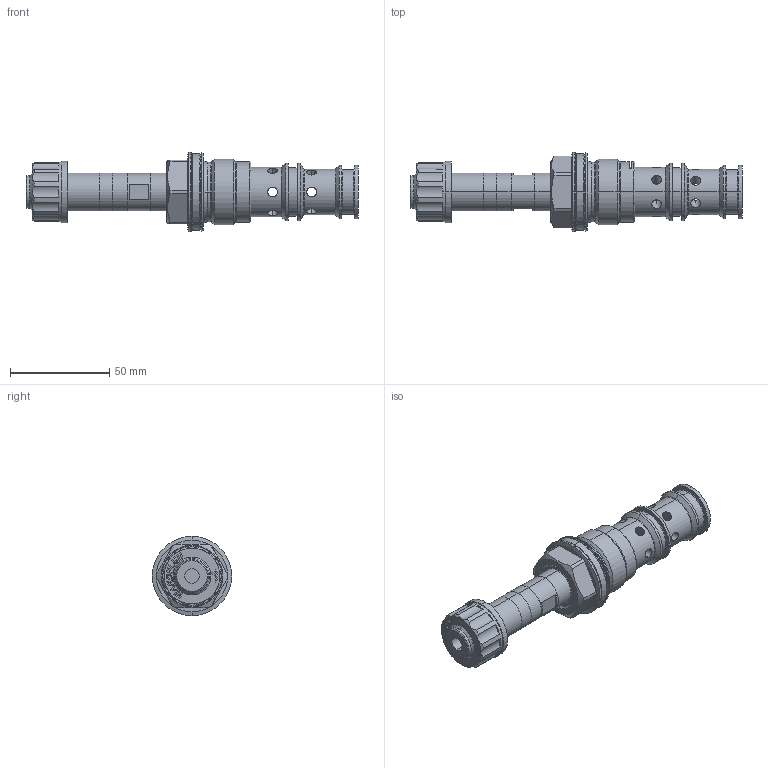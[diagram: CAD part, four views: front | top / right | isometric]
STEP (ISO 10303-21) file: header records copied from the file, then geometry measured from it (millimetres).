
FILE_DESCRIPTION (( 'STEP AP214' ), '1' );
FILE_NAME ('MVPPM33.STEP', '2014-03-19T09:37:58', ( '' ), ( '' ), 'SwSTEP 2.0', 'SolidWorks 2012', '' );
FILE_SCHEMA (( 'AUTOMOTIVE_DESIGN' ));
Length unit declared in the file: millimetre
Products named in the file (1): MVPPM33
Bounding box: 167.2 x 40 x 40 mm (x, y, z)
Volume: 83244.3 mm3; surface area: 29871.6 mm2
Topology: 5 solids, 7 shells, 484 faces, 1127 edges, 681 vertices
Faces by surface type: plane 175, cylinder 149, cone 83, torus 61, bspline 16
Entity records: 20593 total; most frequent: CARTESIAN_POINT 4397, DIRECTION 2377, ORIENTED_EDGE 2246, EDGE_CURVE 1123, AXIS2_PLACEMENT_3D 913, VERTEX_POINT 681, VECTOR 551, LINE 551
